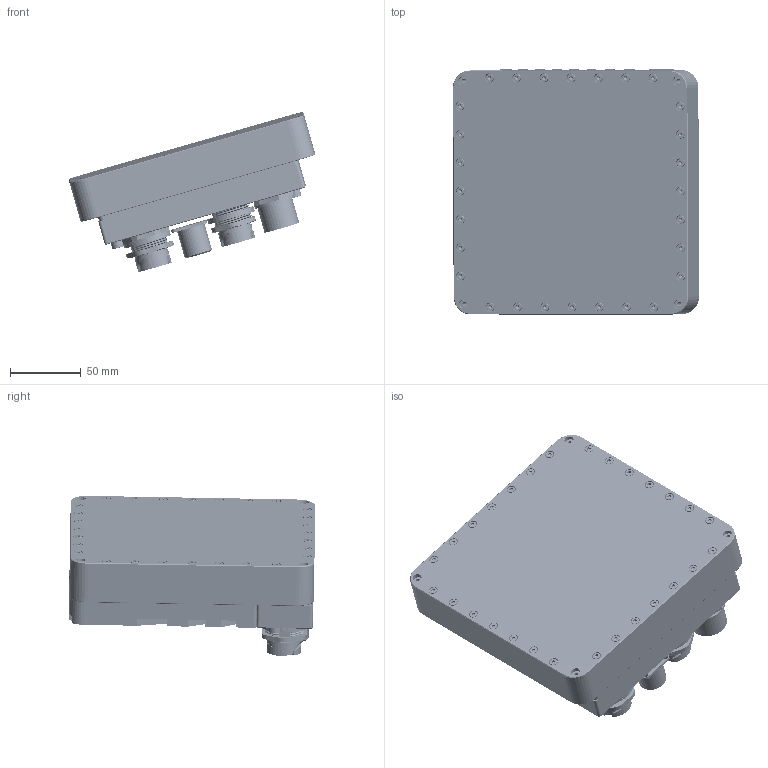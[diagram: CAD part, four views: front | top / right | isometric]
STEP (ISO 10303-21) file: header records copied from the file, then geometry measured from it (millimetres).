
FILE_DESCRIPTION(('CATIA V5 STEP Exchange'),'2;1');
FILE_NAME('Z:\Abteilung_Technik\CAD_CAM\projekt_IP67_Qbi\Variante_Kabelverschraubung\ip67-1000_variante-kabelverschraubung.stp','2025-05-21T08:28:39+00:00',('none'),('none'),'CATIA Version 5 Release 21 GA (IN-10)','CATIA V5 STEP AP203','none');
FILE_SCHEMA(('CONFIG_CONTROL_DESIGN'));
Products named in the file (18): Product10; Product1; 0-SBC35-PCBA_MEHLNAS_0916_ASM; CHIP-CPU_INTEL_EHL_R04_ASM; K42510_ASM; K42510_TOP_FID_SRO_1_8_ASM; J99041_-_DIE_ASM; J99041_-_EPOXY_ASM; MODULE-DDR4-2X_ASSY_ASM; 0C_COM9P_2X5PIN_ASM; 0C_USB20_2X5PIN_ASM; 0C_POWER_DC_IN_4PIN_1X4_ASM; 0C_SATA_POWER_4PIN_20AWG_ASM; ACA-SPI-004-P19_FLASH_SOCKET_WS_ASM; FLASH_SOCKET_WSON_8X6_CLOSE__20_ASM; SMHN-S01_A1__ASM; ASM0001_ASM; MEHLNAS-02-0916-1018_ASM
Assembly tree (1617 placements, depth 7):
  Product10
    Product1
      0-SBC35-PCBA_MEHLNAS_0916_ASM
        #74
        CHIP-CPU_INTEL_EHL_R04_ASM
          K42510_ASM
            #3662
            K42510_TOP_FID_SRO_1_8_ASM
              #9245
            #9400
          J99041_-_DIE_ASM
            #9563
            #9738
          J99041_-_EPOXY_ASM
            #9934
            #10205
          #10489  x9
        #10872
        #54193
        MODULE-DDR4-2X_ASSY_ASM
          #284996
          #305152
        #354739
        #385255  x2
        #462141
        #670958  x2
        0C_COM9P_2X5PIN_ASM  x4
          #765068
        #773016
        0C_USB20_2X5PIN_ASM
          #778138
        0C_POWER_DC_IN_4PIN_1X4_ASM
          #783854
        0C_SATA_POWER_4PIN_20AWG_ASM
          #788339
        #791606
        #818768
        #891288
        #896728
        #900931
        #904610
        #906345
        #923595
        #931562
        #937636
        #946849
        #954757
        #958568
        #985730
        #1003078
        ACA-SPI-004-P19_FLASH_SOCKET_WS_ASM
          FLASH_SOCKET_WSON_8X6_CLOSE__20_ASM
            #1008584
            #1017702
            #1023806
        SMHN-S01_A1__ASM
          ASM0001_ASM
            #1038730
            #1043766
            #1048476
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Bounding box: 173.63 x 172.99 x 112.95 mm (x, y, z)
Volume: 967634.3 mm3; surface area: 458656.4 mm2
Topology: 1617 solids, 3265 shells, 54620 faces, 151188 edges, 101388 vertices
Faces by surface type: plane 41038, cylinder 11562, bspline 958, cone 458, torus 390, sphere 208, revolution 4, extrusion 2
Entity records: 1317881 total; most frequent: CARTESIAN_POINT 343441, ORIENTED_EDGE 208254, DIRECTION 175135, EDGE_CURVE 108600, VECTOR 86535, LINE 86533, VERTEX_POINT 73550, AXIS2_PLACEMENT_3D 49562
